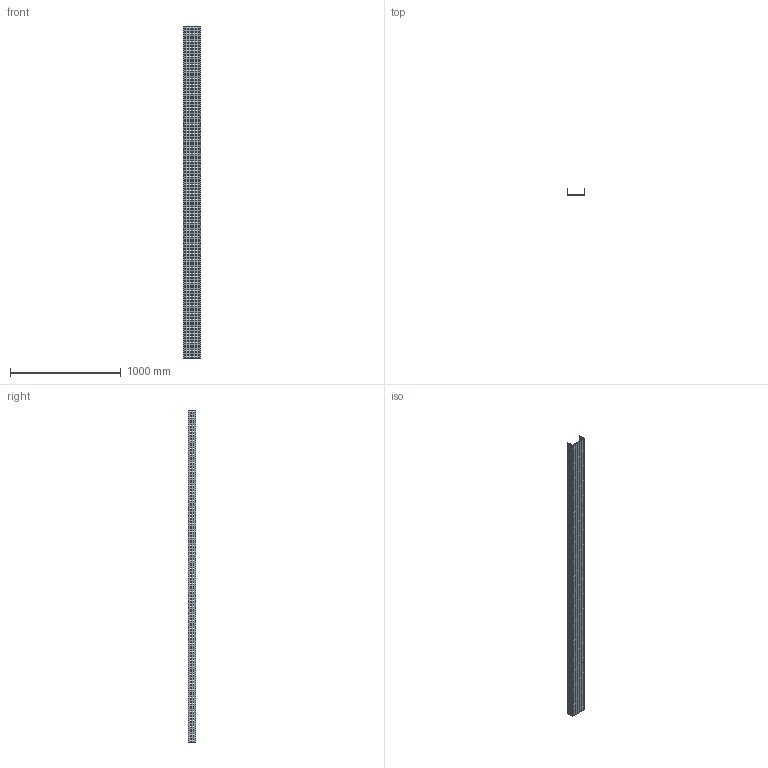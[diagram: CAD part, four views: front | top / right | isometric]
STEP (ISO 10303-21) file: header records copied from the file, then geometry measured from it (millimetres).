
FILE_DESCRIPTION (( 'STEP AP214' ), '1' );
FILE_NAME ('01B3H150.step', '2025-02-21T10:14:21', ( '' ), ( '' ), 'SwSTEP 2.0', 'SolidWorks 2023', '' );
FILE_SCHEMA (( 'AUTOMOTIVE_DESIGN' ));
Products named in the file (1): 01B3H150
Bounding box: 154 x 65.5 x 3000 mm (x, y, z)
Volume: 2478000 mm3; surface area: 1600226 mm2
Topology: 1 solids, 1 shells, 2890 faces, 8664 edges, 5776 vertices
Faces by surface type: plane 2890
Entity records: 98231 total; most frequent: CARTESIAN_POINT 17331, ORIENTED_EDGE 17328, DIRECTION 14446, LINE 8664, EDGE_CURVE 8664, VECTOR 8664, VERTEX_POINT 5776, EDGE_LOOP 4330
